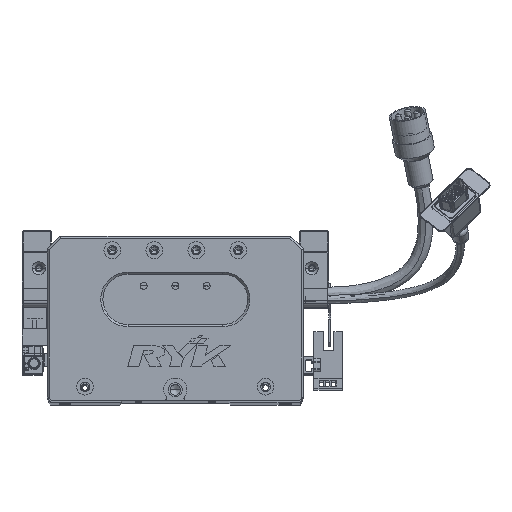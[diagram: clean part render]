
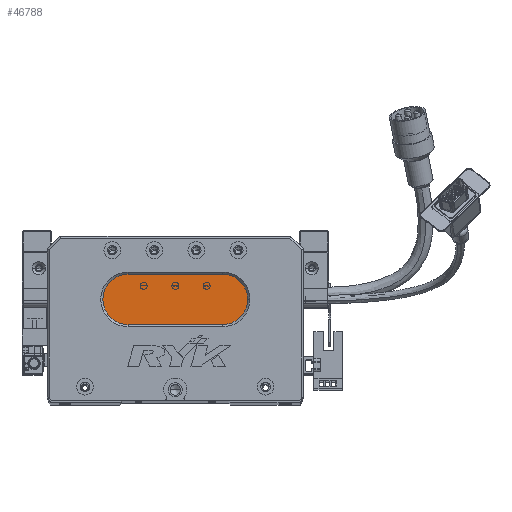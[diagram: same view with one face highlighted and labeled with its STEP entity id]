
A CAD part, top view. The second image highlights one B-rep face of the part: STEP entity #46788.
In plain terms, the highlighted planar face has unit normal (0, 0, 1) as drawn and (0, 0, -1) by its records, which use the part's own axes.
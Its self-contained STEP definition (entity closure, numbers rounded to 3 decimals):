
#3870 = VERTEX_POINT ( 'NONE', #50434 ) ;
#7096 = CARTESIAN_POINT ( 'NONE',  ( 83.5, 48., 13. ) ) ;
#7703 = DIRECTION ( 'NONE',  ( -1., 0., 0. ) ) ;
#8844 = AXIS2_PLACEMENT_3D ( 'NONE', #77204, #47614, #53708 ) ;
#13254 = EDGE_CURVE ( 'NONE', #68102, #23100, #17926, .T. ) ;
#15033 = EDGE_CURVE ( 'NONE', #23100, #37006, #37025, .T. ) ;
#17926 = CIRCLE ( 'NONE', #8844, 12. ) ;
#18575 = CARTESIAN_POINT ( 'NONE',  ( 83.5, 60., 13. ) ) ;
#22705 = DIRECTION ( 'NONE',  ( 0., 0., -1. ) ) ;
#23100 = VERTEX_POINT ( 'NONE', #57389 ) ;
#24334 = CIRCLE ( 'NONE', #25959, 12. ) ;
#25959 = AXIS2_PLACEMENT_3D ( 'NONE', #7096, #48932, #43860 ) ;
#28277 = CARTESIAN_POINT ( 'NONE',  ( 38.5, 48., 13. ) ) ;
#28355 = ORIENTED_EDGE ( 'NONE', *, *, #49105, .T. ) ;
#28754 = CARTESIAN_POINT ( 'NONE',  ( 83.5, 48., 13. ) ) ;
#29337 = VECTOR ( 'NONE', #30559, 1000. ) ;
#29539 = PLANE ( 'NONE',  #43724 ) ;
#30559 = DIRECTION ( 'NONE',  ( 1., 0., 0. ) ) ;
#31932 = CARTESIAN_POINT ( 'NONE',  ( 83.5, 36., 13. ) ) ;
#37006 = VERTEX_POINT ( 'NONE', #78202 ) ;
#37025 = LINE ( 'NONE', #18575, #29337 ) ;
#39028 = EDGE_CURVE ( 'NONE', #3870, #68102, #40710, .T. ) ;
#39913 = EDGE_CURVE ( 'NONE', #37006, #69654, #24334, .T. ) ;
#40483 = FACE_OUTER_BOUND ( 'NONE', #55132, .T. ) ;
#40551 = DIRECTION ( 'NONE',  ( -1., 0., 0. ) ) ;
#40710 = CIRCLE ( 'NONE', #48368, 12. ) ;
#41808 = DIRECTION ( 'NONE',  ( 0., 0., -1. ) ) ;
#42070 = DIRECTION ( 'NONE',  ( -1., 0., 0. ) ) ;
#43724 = AXIS2_PLACEMENT_3D ( 'NONE', #28754, #41808, #42070 ) ;
#43860 = DIRECTION ( 'NONE',  ( -1., 0., 0. ) ) ;
#46788 = ADVANCED_FACE ( 'NONE', ( #40483 ), #29539, .T. ) ;
#47614 = DIRECTION ( 'NONE',  ( 0., 0., -1. ) ) ;
#47699 = ORIENTED_EDGE ( 'NONE', *, *, #13254, .T. ) ;
#48368 = AXIS2_PLACEMENT_3D ( 'NONE', #28277, #22705, #40551 ) ;
#48932 = DIRECTION ( 'NONE',  ( 0., 0., -1. ) ) ;
#49105 = EDGE_CURVE ( 'NONE', #69654, #3870, #59167, .T. ) ;
#50434 = CARTESIAN_POINT ( 'NONE',  ( 38.5, 36., 13. ) ) ;
#51827 = ORIENTED_EDGE ( 'NONE', *, *, #15033, .T. ) ;
#53708 = DIRECTION ( 'NONE',  ( -1., 0., 0. ) ) ;
#55132 = EDGE_LOOP ( 'NONE', ( #62683, #28355, #71455, #47699, #51827 ) ) ;
#57389 = CARTESIAN_POINT ( 'NONE',  ( 38.5, 60., 13. ) ) ;
#59167 = LINE ( 'NONE', #31932, #65818 ) ;
#62683 = ORIENTED_EDGE ( 'NONE', *, *, #39913, .T. ) ;
#65818 = VECTOR ( 'NONE', #7703, 1000. ) ;
#68102 = VERTEX_POINT ( 'NONE', #76303 ) ;
#69654 = VERTEX_POINT ( 'NONE', #74164 ) ;
#71455 = ORIENTED_EDGE ( 'NONE', *, *, #39028, .T. ) ;
#74164 = CARTESIAN_POINT ( 'NONE',  ( 83.5, 36., 13. ) ) ;
#76303 = CARTESIAN_POINT ( 'NONE',  ( 26.5, 48., 13. ) ) ;
#77204 = CARTESIAN_POINT ( 'NONE',  ( 38.5, 48., 13. ) ) ;
#78202 = CARTESIAN_POINT ( 'NONE',  ( 83.5, 60., 13. ) ) ;
